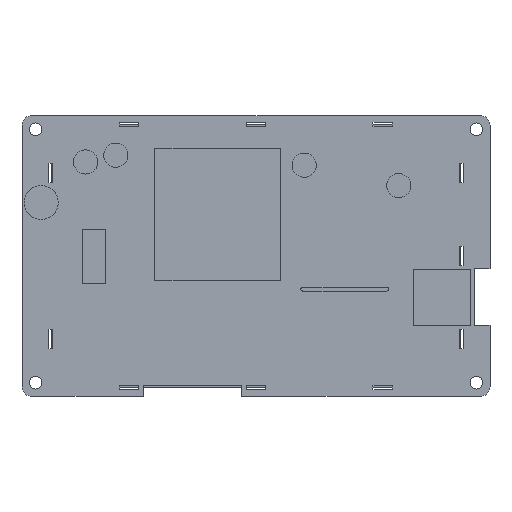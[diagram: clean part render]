
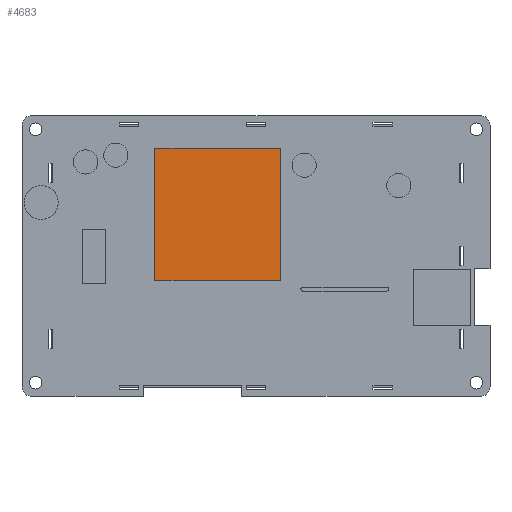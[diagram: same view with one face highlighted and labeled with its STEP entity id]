
A CAD part, top view. The second image highlights one B-rep face of the part: STEP entity #4683.
In plain terms, the highlighted planar face has unit normal (0, 0, 1).
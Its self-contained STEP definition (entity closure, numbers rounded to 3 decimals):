
#2126=DIRECTION('',(0.,-1.,0.));
#2127=VECTOR('',#2126,34.417);
#2128=CARTESIAN_POINT('',(1932.782,964.819,5.4));
#2129=LINE('',#2128,#2127);
#2133=DIRECTION('',(-1.,0.,0.));
#2134=VECTOR('',#2133,32.766);
#2135=CARTESIAN_POINT('',(1965.548,964.819,5.4));
#2136=LINE('',#2135,#2134);
#2140=DIRECTION('',(0.,1.,0.));
#2141=VECTOR('',#2140,34.417);
#2142=CARTESIAN_POINT('',(1965.548,930.402,5.4));
#2143=LINE('',#2142,#2141);
#2147=DIRECTION('',(1.,0.,0.));
#2148=VECTOR('',#2147,32.766);
#2149=CARTESIAN_POINT('',(1932.782,930.402,5.4));
#2150=LINE('',#2149,#2148);
#2956=CARTESIAN_POINT('',(1932.782,964.819,5.4));
#2957=CARTESIAN_POINT('',(1932.782,930.402,5.4));
#2958=VERTEX_POINT('',#2956);
#2959=VERTEX_POINT('',#2957);
#2960=CARTESIAN_POINT('',(1965.548,930.402,5.4));
#2961=VERTEX_POINT('',#2960);
#2962=CARTESIAN_POINT('',(1965.548,964.819,5.4));
#2963=VERTEX_POINT('',#2962);
#4672=CARTESIAN_POINT('',(1955.439,900.138,5.4));
#4673=DIRECTION('',(0.,0.,1.));
#4674=DIRECTION('',(1.,0.,0.));
#4675=AXIS2_PLACEMENT_3D('',#4672,#4673,#4674);
#4676=PLANE('',#4675);
#4677=ORIENTED_EDGE('',*,*,#4624,.F.);
#4678=ORIENTED_EDGE('',*,*,#4639,.F.);
#4679=ORIENTED_EDGE('',*,*,#4653,.F.);
#4680=ORIENTED_EDGE('',*,*,#4666,.F.);
#4681=EDGE_LOOP('',(#4677,#4678,#4679,#4680));
#4682=FACE_OUTER_BOUND('',#4681,.F.);
#4624=EDGE_CURVE('',#2958,#2959,#2129,.T.);
#4639=EDGE_CURVE('',#2963,#2958,#2136,.T.);
#4653=EDGE_CURVE('',#2961,#2963,#2143,.T.);
#4666=EDGE_CURVE('',#2959,#2961,#2150,.T.);
#4683=ADVANCED_FACE('',(#4682),#4676,.T.);
